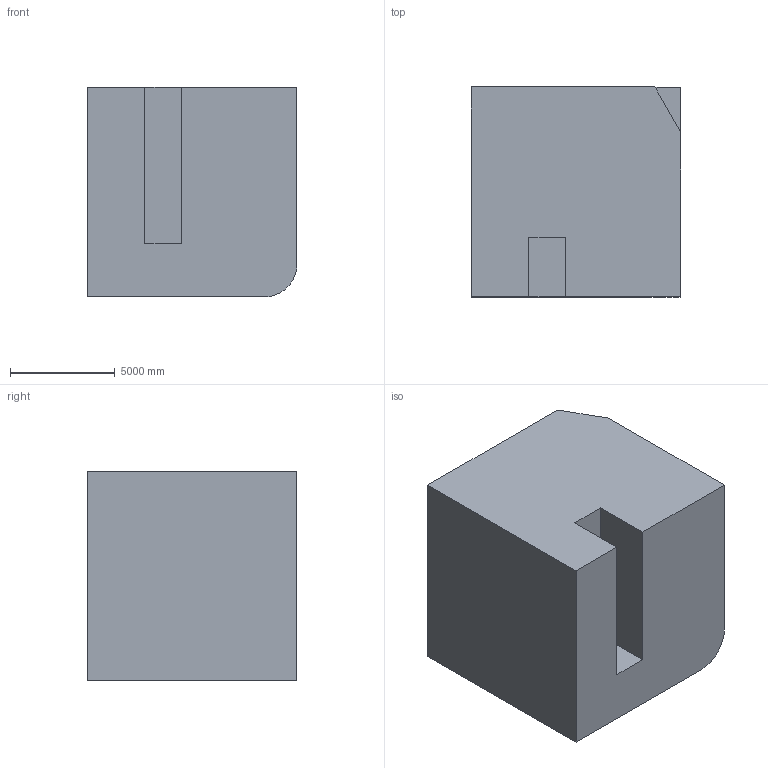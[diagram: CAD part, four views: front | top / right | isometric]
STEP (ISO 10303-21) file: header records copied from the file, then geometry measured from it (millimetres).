
FILE_DESCRIPTION (( 'STEP AP203' ), '1' );
FILE_NAME ('1308.STEP', '2022-08-18T13:40:55', ( 'user' ), ( '' ), 'SwSTEP 2.0', 'SolidWorks 2021', '' );
FILE_SCHEMA (( 'CONFIG_CONTROL_DESIGN' ));
Length unit declared in the file: centimetre
Products named in the file (1): 1308
Bounding box: 10000 x 10000 x 10000 mm (x, y, z)
Volume: 915582989055.1 mm3; surface area: 671307640.1 mm2
Topology: 1 solids, 1 shells, 16 faces, 39 edges, 26 vertices
Faces by surface type: plane 13, cylinder 3
Entity records: 546 total; most frequent: CARTESIAN_POINT 82, DIRECTION 79, ORIENTED_EDGE 78, EDGE_CURVE 39, VECTOR 33, LINE 33, VERTEX_POINT 26, AXIS2_PLACEMENT_3D 23
